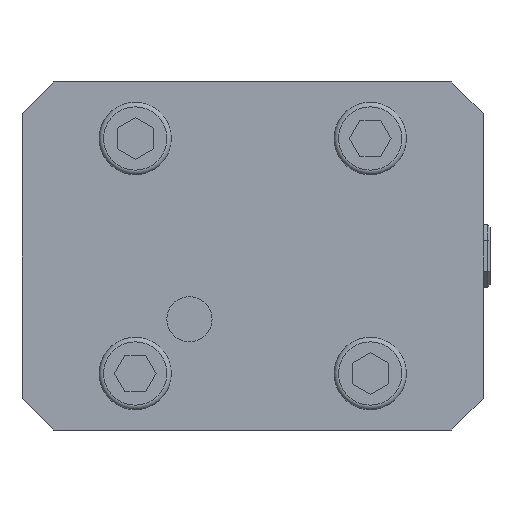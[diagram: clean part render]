
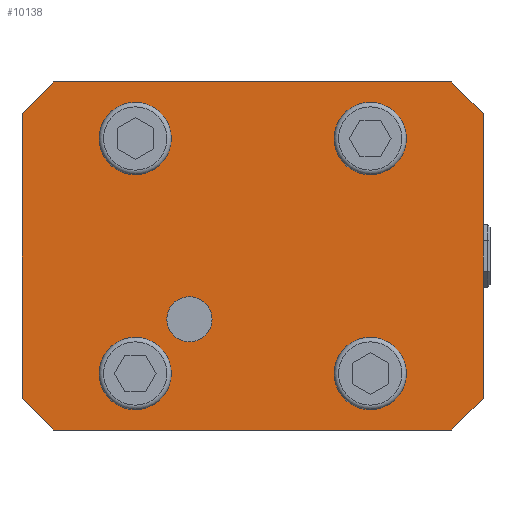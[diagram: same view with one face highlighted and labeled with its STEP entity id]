
A CAD part, front view. The second image highlights one B-rep face of the part: STEP entity #10138.
In plain terms, the highlighted planar face has unit normal (0, -1, 0).
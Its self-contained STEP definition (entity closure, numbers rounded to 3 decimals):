
#156 = CARTESIAN_POINT ( 'NONE',  ( 20., 0., 26. ) ) ;
#346 = DIRECTION ( 'NONE',  ( -1., 0., 0. ) ) ;
#394 = AXIS2_PLACEMENT_3D ( 'NONE', #26955, #24385, #964 ) ;
#888 = AXIS2_PLACEMENT_3D ( 'NONE', #30112, #20228, #20399 ) ;
#964 = DIRECTION ( 'NONE',  ( 1., 0., 0. ) ) ;
#2016 = ORIENTED_EDGE ( 'NONE', *, *, #14528, .T. ) ;
#2293 = CARTESIAN_POINT ( 'NONE',  ( 51., 0., -38.5 ) ) ;
#2447 = CARTESIAN_POINT ( 'NONE',  ( -51., 0., -31.5 ) ) ;
#2712 = EDGE_LOOP ( 'NONE', ( #4684 ) ) ;
#3529 = CARTESIAN_POINT ( 'NONE',  ( -14., 0., -14. ) ) ;
#4395 = EDGE_LOOP ( 'NONE', ( #31790, #11315, #12426, #2016, #9507, #24951, #29211, #21635 ) ) ;
#4684 = ORIENTED_EDGE ( 'NONE', *, *, #21515, .F. ) ;
#4706 = AXIS2_PLACEMENT_3D ( 'NONE', #8532, #21362, #31754 ) ;
#6143 = EDGE_CURVE ( 'NONE', #19866, #27465, #11707, .T. ) ;
#6313 = CARTESIAN_POINT ( 'NONE',  ( 26., 0., -20. ) ) ;
#6407 = CARTESIAN_POINT ( 'NONE',  ( 51., 0., 31.5 ) ) ;
#7203 = CIRCLE ( 'NONE', #29541, 6. ) ;
#7454 = DIRECTION ( 'NONE',  ( -1., 0., 0. ) ) ;
#7755 = LINE ( 'NONE', #28231, #20226 ) ;
#7920 = DIRECTION ( 'NONE',  ( 0.707, 0., 0.707 ) ) ;
#8032 = CARTESIAN_POINT ( 'NONE',  ( -44., 0., 38.5 ) ) ;
#8085 = CARTESIAN_POINT ( 'NONE',  ( -44., 0., 38.5 ) ) ;
#8532 = CARTESIAN_POINT ( 'NONE',  ( -26., 0., 26. ) ) ;
#8591 = VECTOR ( 'NONE', #30907, 1000. ) ;
#8897 = EDGE_LOOP ( 'NONE', ( #15992 ) ) ;
#9507 = ORIENTED_EDGE ( 'NONE', *, *, #18465, .F. ) ;
#9791 = FACE_BOUND ( 'NONE', #23143, .T. ) ;
#10138 = ADVANCED_FACE ( 'NONE', ( #9791, #29929, #27529, #17485, #14744, #11840 ), #30107, .F. ) ;
#10545 = VERTEX_POINT ( 'NONE', #31329 ) ;
#10760 = EDGE_CURVE ( 'NONE', #22884, #17755, #14584, .T. ) ;
#10768 = EDGE_CURVE ( 'NONE', #21360, #21360, #30361, .T. ) ;
#10794 = ORIENTED_EDGE ( 'NONE', *, *, #10768, .F. ) ;
#11122 = LINE ( 'NONE', #8032, #22213 ) ;
#11294 = VECTOR ( 'NONE', #12351, 1000. ) ;
#11307 = CIRCLE ( 'NONE', #4706, 6. ) ;
#11315 = ORIENTED_EDGE ( 'NONE', *, *, #21485, .T. ) ;
#11707 = LINE ( 'NONE', #6407, #19815 ) ;
#11840 = FACE_OUTER_BOUND ( 'NONE', #4395, .T. ) ;
#12180 = DIRECTION ( 'NONE',  ( 0., 1., 0. ) ) ;
#12351 = DIRECTION ( 'NONE',  ( 0., 0., -1. ) ) ;
#12426 = ORIENTED_EDGE ( 'NONE', *, *, #10760, .T. ) ;
#12513 = EDGE_LOOP ( 'NONE', ( #13510 ) ) ;
#12903 = CARTESIAN_POINT ( 'NONE',  ( -14., 0., -19. ) ) ;
#13510 = ORIENTED_EDGE ( 'NONE', *, *, #17785, .F. ) ;
#14328 = VECTOR ( 'NONE', #7454, 1000. ) ;
#14511 = AXIS2_PLACEMENT_3D ( 'NONE', #32829, #12180, #16964 ) ;
#14528 = EDGE_CURVE ( 'NONE', #17755, #30930, #28530, .T. ) ;
#14584 = LINE ( 'NONE', #17161, #11294 ) ;
#14607 = EDGE_CURVE ( 'NONE', #27465, #16121, #15582, .T. ) ;
#14744 = FACE_BOUND ( 'NONE', #2712, .T. ) ;
#14817 = LINE ( 'NONE', #2293, #26364 ) ;
#15238 = CARTESIAN_POINT ( 'NONE',  ( 51., 0., -31.5 ) ) ;
#15582 = LINE ( 'NONE', #31595, #17350 ) ;
#15624 = VERTEX_POINT ( 'NONE', #15238 ) ;
#15865 = AXIS2_PLACEMENT_3D ( 'NONE', #3529, #29659, #27432 ) ;
#15992 = ORIENTED_EDGE ( 'NONE', *, *, #27665, .F. ) ;
#16121 = VERTEX_POINT ( 'NONE', #8085 ) ;
#16133 = EDGE_CURVE ( 'NONE', #16674, #15624, #7755, .T. ) ;
#16674 = VERTEX_POINT ( 'NONE', #25035 ) ;
#16679 = CARTESIAN_POINT ( 'NONE',  ( 51., 0., 31.5 ) ) ;
#16964 = DIRECTION ( 'NONE',  ( 0., 0., 1. ) ) ;
#17161 = CARTESIAN_POINT ( 'NONE',  ( -51., 0., -38.5 ) ) ;
#17350 = VECTOR ( 'NONE', #346, 1000. ) ;
#17485 = FACE_BOUND ( 'NONE', #8897, .T. ) ;
#17755 = VERTEX_POINT ( 'NONE', #2447 ) ;
#17785 = EDGE_CURVE ( 'NONE', #32415, #32415, #7203, .T. ) ;
#17944 = CARTESIAN_POINT ( 'NONE',  ( 44., 0., 38.5 ) ) ;
#18464 = DIRECTION ( 'NONE',  ( -0.707, 0., -0.707 ) ) ;
#18465 = EDGE_CURVE ( 'NONE', #16674, #30930, #28119, .T. ) ;
#18478 = CARTESIAN_POINT ( 'NONE',  ( -44., 0., -38.5 ) ) ;
#18492 = ORIENTED_EDGE ( 'NONE', *, *, #31385, .F. ) ;
#18826 = EDGE_CURVE ( 'NONE', #19866, #15624, #14817, .T. ) ;
#18915 = CIRCLE ( 'NONE', #394, 6. ) ;
#19058 = CARTESIAN_POINT ( 'NONE',  ( 26., 0., -26. ) ) ;
#19383 = DIRECTION ( 'NONE',  ( 0., 0., 1. ) ) ;
#19567 = DIRECTION ( 'NONE',  ( -0.707, 0., 0.707 ) ) ;
#19645 = CARTESIAN_POINT ( 'NONE',  ( -26., 0., 20. ) ) ;
#19815 = VECTOR ( 'NONE', #19567, 1000. ) ;
#19866 = VERTEX_POINT ( 'NONE', #16679 ) ;
#20226 = VECTOR ( 'NONE', #7920, 1000. ) ;
#20228 = DIRECTION ( 'NONE',  ( 0., -1., 0. ) ) ;
#20399 = DIRECTION ( 'NONE',  ( -1., 0., 0. ) ) ;
#21360 = VERTEX_POINT ( 'NONE', #156 ) ;
#21362 = DIRECTION ( 'NONE',  ( 0., -1., 0. ) ) ;
#21485 = EDGE_CURVE ( 'NONE', #16121, #22884, #11122, .T. ) ;
#21515 = EDGE_CURVE ( 'NONE', #32584, #32584, #11307, .T. ) ;
#21635 = ORIENTED_EDGE ( 'NONE', *, *, #6143, .T. ) ;
#22213 = VECTOR ( 'NONE', #18464, 1000. ) ;
#22884 = VERTEX_POINT ( 'NONE', #27245 ) ;
#23143 = EDGE_LOOP ( 'NONE', ( #18492 ) ) ;
#23961 = DIRECTION ( 'NONE',  ( 0., -1., 0. ) ) ;
#24385 = DIRECTION ( 'NONE',  ( 0., -1., 0. ) ) ;
#24951 = ORIENTED_EDGE ( 'NONE', *, *, #16133, .T. ) ;
#25035 = CARTESIAN_POINT ( 'NONE',  ( 44., 0., -38.5 ) ) ;
#26364 = VECTOR ( 'NONE', #28260, 1000. ) ;
#26955 = CARTESIAN_POINT ( 'NONE',  ( -26., 0., -26. ) ) ;
#27245 = CARTESIAN_POINT ( 'NONE',  ( -51., 0., 31.5 ) ) ;
#27432 = DIRECTION ( 'NONE',  ( 0., 0., -1. ) ) ;
#27465 = VERTEX_POINT ( 'NONE', #17944 ) ;
#27529 = FACE_BOUND ( 'NONE', #12513, .T. ) ;
#27665 = EDGE_CURVE ( 'NONE', #10545, #10545, #18915, .T. ) ;
#28119 = LINE ( 'NONE', #33744, #14328 ) ;
#28231 = CARTESIAN_POINT ( 'NONE',  ( 51., 0., -31.5 ) ) ;
#28260 = DIRECTION ( 'NONE',  ( 0., 0., -1. ) ) ;
#28530 = LINE ( 'NONE', #18478, #8591 ) ;
#29211 = ORIENTED_EDGE ( 'NONE', *, *, #18826, .F. ) ;
#29541 = AXIS2_PLACEMENT_3D ( 'NONE', #19058, #23961, #19383 ) ;
#29659 = DIRECTION ( 'NONE',  ( 0., -1., 0. ) ) ;
#29929 = FACE_BOUND ( 'NONE', #30240, .T. ) ;
#30107 = PLANE ( 'NONE',  #14511 ) ;
#30112 = CARTESIAN_POINT ( 'NONE',  ( 26., 0., 26. ) ) ;
#30240 = EDGE_LOOP ( 'NONE', ( #10794 ) ) ;
#30361 = CIRCLE ( 'NONE', #888, 6. ) ;
#30567 = CIRCLE ( 'NONE', #15865, 5. ) ;
#30907 = DIRECTION ( 'NONE',  ( 0.707, 0., -0.707 ) ) ;
#30930 = VERTEX_POINT ( 'NONE', #31457 ) ;
#31157 = VERTEX_POINT ( 'NONE', #12903 ) ;
#31329 = CARTESIAN_POINT ( 'NONE',  ( -20., 0., -26. ) ) ;
#31385 = EDGE_CURVE ( 'NONE', #31157, #31157, #30567, .T. ) ;
#31457 = CARTESIAN_POINT ( 'NONE',  ( -44., 0., -38.5 ) ) ;
#31595 = CARTESIAN_POINT ( 'NONE',  ( 51., 0., 38.5 ) ) ;
#31754 = DIRECTION ( 'NONE',  ( 0., 0., -1. ) ) ;
#31790 = ORIENTED_EDGE ( 'NONE', *, *, #14607, .T. ) ;
#32415 = VERTEX_POINT ( 'NONE', #6313 ) ;
#32584 = VERTEX_POINT ( 'NONE', #19645 ) ;
#32829 = CARTESIAN_POINT ( 'NONE',  ( 51., 0., -38.5 ) ) ;
#33744 = CARTESIAN_POINT ( 'NONE',  ( 51., 0., -38.5 ) ) ;
